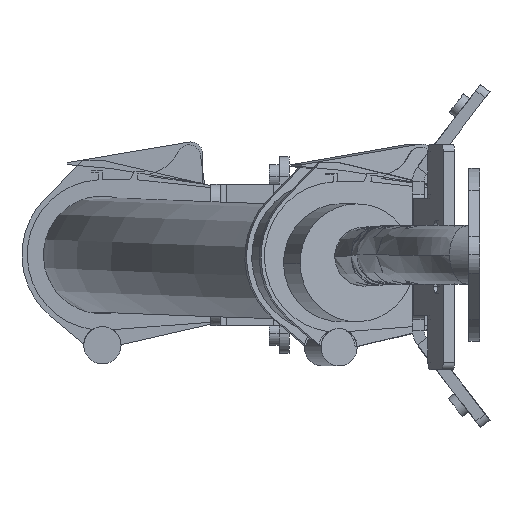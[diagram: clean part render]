
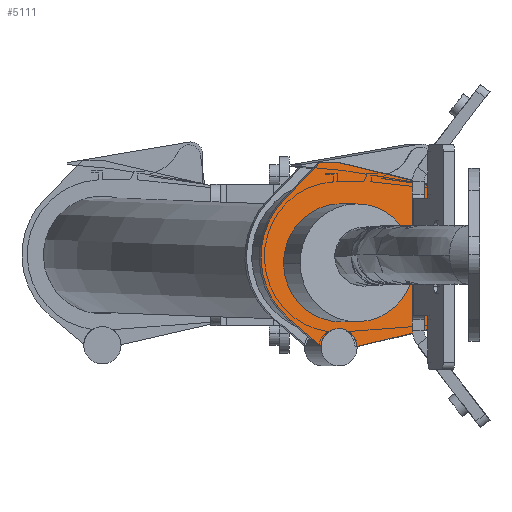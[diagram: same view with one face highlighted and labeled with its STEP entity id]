
A CAD part, left-side view. The second image highlights one B-rep face of the part: STEP entity #5111.
In plain terms, the highlighted planar face has unit normal (-0.966, -0.259, 0).
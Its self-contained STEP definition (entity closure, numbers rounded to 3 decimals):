
#34 = CARTESIAN_POINT ( 'NONE',  ( 1647.288, 160.635, 2167.454 ) ) ;
#85 = VERTEX_POINT ( 'NONE', #11930 ) ;
#169 = CARTESIAN_POINT ( 'NONE',  ( 1655.269, 130.851, 2201.564 ) ) ;
#283 = EDGE_CURVE ( 'NONE', #12365, #937, #14846, .T. ) ;
#709 = VERTEX_POINT ( 'NONE', #169 ) ;
#802 = EDGE_CURVE ( 'NONE', #15372, #4030, #15920, .T. ) ;
#844 = CARTESIAN_POINT ( 'NONE',  ( 1697.921, -28.328, 2257.454 ) ) ;
#859 = DIRECTION ( 'NONE',  ( 0., 0., -1. ) ) ;
#872 = VERTEX_POINT ( 'NONE', #2275 ) ;
#937 = VERTEX_POINT ( 'NONE', #5203 ) ;
#1726 = VERTEX_POINT ( 'NONE', #8625 ) ;
#1794 = VERTEX_POINT ( 'NONE', #9268 ) ;
#1861 = ORIENTED_EDGE ( 'NONE', *, *, #5844, .T. ) ;
#2147 = CARTESIAN_POINT ( 'NONE',  ( 1647.288, 160.635, 2252.154 ) ) ;
#2153 = VERTEX_POINT ( 'NONE', #14534 ) ;
#2275 = CARTESIAN_POINT ( 'NONE',  ( 1644.836, 169.787, 2158.641 ) ) ;
#2305 = DIRECTION ( 'NONE',  ( 0.966, 0.259, 0. ) ) ;
#2725 = CARTESIAN_POINT ( 'NONE',  ( 1647.288, 160.635, 2203.954 ) ) ;
#2954 = CARTESIAN_POINT ( 'NONE',  ( 1639.742, 188.797, 2232.781 ) ) ;
#3064 = ORIENTED_EDGE ( 'NONE', *, *, #17690, .T. ) ;
#3138 = VECTOR ( 'NONE', #7221, 1000. ) ;
#3220 = VECTOR ( 'NONE', #15069, 1000. ) ;
#3458 = VECTOR ( 'NONE', #8054, 1000. ) ;
#3520 = CARTESIAN_POINT ( 'NONE',  ( 1671.876, 68.871, 2167.954 ) ) ;
#3654 = EDGE_CURVE ( 'NONE', #10293, #2153, #12302, .T. ) ;
#3892 = DIRECTION ( 'NONE',  ( -0.966, -0.259, 0. ) ) ;
#4010 = ORIENTED_EDGE ( 'NONE', *, *, #15313, .F. ) ;
#4030 = VERTEX_POINT ( 'NONE', #16703 ) ;
#4642 = EDGE_CURVE ( 'NONE', #5885, #872, #11440, .T. ) ;
#4769 = VERTEX_POINT ( 'NONE', #2147 ) ;
#4796 = LINE ( 'NONE', #11603, #17666 ) ;
#4887 = DIRECTION ( 'NONE',  ( -0.259, 0.966, 0. ) ) ;
#5018 = DIRECTION ( 'NONE',  ( -0.252, 0.94, 0.228 ) ) ;
#5070 = AXIS2_PLACEMENT_3D ( 'NONE', #9982, #12736, #11441 ) ;
#5111 = ADVANCED_FACE ( 'NONE', ( #7812, #12154 ), #5140, .F. ) ;
#5140 = PLANE ( 'NONE',  #12048 ) ;
#5203 = CARTESIAN_POINT ( 'NONE',  ( 1661.523, 107.509, 2257.454 ) ) ;
#5220 = DIRECTION ( 'NONE',  ( 0., 0., -1. ) ) ;
#5267 = ORIENTED_EDGE ( 'NONE', *, *, #5528, .T. ) ;
#5287 = CARTESIAN_POINT ( 'NONE',  ( 1661.523, 107.509, 2261.454 ) ) ;
#5528 = EDGE_CURVE ( 'NONE', #4030, #5885, #7923, .T. ) ;
#5612 = LINE ( 'NONE', #11237, #17744 ) ;
#5643 = CIRCLE ( 'NONE', #16256, 9.5 ) ;
#5844 = EDGE_CURVE ( 'NONE', #8208, #2153, #4796, .T. ) ;
#5885 = VERTEX_POINT ( 'NONE', #7161 ) ;
#6121 = DIRECTION ( 'NONE',  ( 0., 0., -1. ) ) ;
#6172 = EDGE_CURVE ( 'NONE', #4769, #15372, #17481, .T. ) ;
#6287 = ORIENTED_EDGE ( 'NONE', *, *, #3654, .F. ) ;
#6456 = CIRCLE ( 'NONE', #7045, 30. ) ;
#6483 = ORIENTED_EDGE ( 'NONE', *, *, #16669, .F. ) ;
#6594 = VECTOR ( 'NONE', #15117, 1000. ) ;
#7045 = AXIS2_PLACEMENT_3D ( 'NONE', #12072, #3892, #4887 ) ;
#7161 = CARTESIAN_POINT ( 'NONE',  ( 1640.541, 185.814, 2172.308 ) ) ;
#7221 = DIRECTION ( 'NONE',  ( -0.182, 0.679, -0.711 ) ) ;
#7397 = LINE ( 'NONE', #8892, #7699 ) ;
#7639 = EDGE_CURVE ( 'NONE', #709, #85, #10371, .T. ) ;
#7699 = VECTOR ( 'NONE', #6121, 1000. ) ;
#7785 = ORIENTED_EDGE ( 'NONE', *, *, #4642, .T. ) ;
#7812 = FACE_BOUND ( 'NONE', #13323, .T. ) ;
#7896 = CARTESIAN_POINT ( 'NONE',  ( 1647.288, 160.635, 2157.954 ) ) ;
#7908 = DIRECTION ( 'NONE',  ( -0.259, 0.966, 0. ) ) ;
#7923 = CIRCLE ( 'NONE', #14410, 41. ) ;
#7930 = ORIENTED_EDGE ( 'NONE', *, *, #7639, .F. ) ;
#8003 = CARTESIAN_POINT ( 'NONE',  ( 1644.7, 170.294, 2252.154 ) ) ;
#8039 = CARTESIAN_POINT ( 'NONE',  ( 1661.523, 107.509, 2150.454 ) ) ;
#8054 = DIRECTION ( 'NONE',  ( 0., 0., 1. ) ) ;
#8208 = VERTEX_POINT ( 'NONE', #11196 ) ;
#8246 = CIRCLE ( 'NONE', #12095, 9.5 ) ;
#8309 = DIRECTION ( 'NONE',  ( -0.966, -0.259, 0. ) ) ;
#8625 = CARTESIAN_POINT ( 'NONE',  ( 1663.076, 101.714, 2150.454 ) ) ;
#8865 = CARTESIAN_POINT ( 'NONE',  ( 1645.994, 165.465, 2154.954 ) ) ;
#8892 = CARTESIAN_POINT ( 'NONE',  ( 1663.076, 101.714, 2261.454 ) ) ;
#9268 = CARTESIAN_POINT ( 'NONE',  ( 1661.523, 107.509, 2239.254 ) ) ;
#9281 = DIRECTION ( 'NONE',  ( -0.966, -0.259, 0. ) ) ;
#9510 = CARTESIAN_POINT ( 'NONE',  ( 1647.288, 160.635, 2157.954 ) ) ;
#9720 = CARTESIAN_POINT ( 'NONE',  ( 1661.523, 107.509, 2261.454 ) ) ;
#9982 = CARTESIAN_POINT ( 'NONE',  ( 1647.505, 159.824, 2200.989 ) ) ;
#10046 = VECTOR ( 'NONE', #10669, 1000. ) ;
#10252 = ORIENTED_EDGE ( 'NONE', *, *, #283, .T. ) ;
#10293 = VERTEX_POINT ( 'NONE', #8039 ) ;
#10371 = CIRCLE ( 'NONE', #5070, 30. ) ;
#10530 = ORIENTED_EDGE ( 'NONE', *, *, #15890, .F. ) ;
#10669 = DIRECTION ( 'NONE',  ( -0.259, 0.966, 0. ) ) ;
#10855 = EDGE_LOOP ( 'NONE', ( #1861, #6287, #3064, #17384, #10252, #16954, #13177, #16616, #16116, #5267, #7785, #10530, #6483 ) ) ;
#11196 = CARTESIAN_POINT ( 'NONE',  ( 1649.745, 151.464, 2158.264 ) ) ;
#11237 = CARTESIAN_POINT ( 'NONE',  ( 1697.921, -28.328, 2150.454 ) ) ;
#11440 = LINE ( 'NONE', #8865, #11721 ) ;
#11441 = DIRECTION ( 'NONE',  ( -0.259, 0.966, 0. ) ) ;
#11603 = CARTESIAN_POINT ( 'NONE',  ( 1661.523, 107.509, 2168.654 ) ) ;
#11721 = VECTOR ( 'NONE', #12915, 1000. ) ;
#11930 = CARTESIAN_POINT ( 'NONE',  ( 1639.742, 188.796, 2200.414 ) ) ;
#12048 = AXIS2_PLACEMENT_3D ( 'NONE', #3520, #2305, #7908 ) ;
#12072 = CARTESIAN_POINT ( 'NONE',  ( 1647.505, 159.824, 2200.989 ) ) ;
#12095 = AXIS2_PLACEMENT_3D ( 'NONE', #9510, #16522, #859 ) ;
#12154 = FACE_OUTER_BOUND ( 'NONE', #10855, .T. ) ;
#12295 = LINE ( 'NONE', #17649, #14144 ) ;
#12302 = LINE ( 'NONE', #5287, #3458 ) ;
#12365 = VERTEX_POINT ( 'NONE', #13578 ) ;
#12447 = EDGE_CURVE ( 'NONE', #1794, #937, #15246, .T. ) ;
#12736 = DIRECTION ( 'NONE',  ( -0.966, -0.259, 0. ) ) ;
#12845 = VERTEX_POINT ( 'NONE', #34 ) ;
#12915 = DIRECTION ( 'NONE',  ( 0.2, -0.746, -0.636 ) ) ;
#13170 = DIRECTION ( 'NONE',  ( 0.252, -0.942, 0.223 ) ) ;
#13177 = ORIENTED_EDGE ( 'NONE', *, *, #15702, .T. ) ;
#13323 = EDGE_LOOP ( 'NONE', ( #7930, #4010 ) ) ;
#13578 = CARTESIAN_POINT ( 'NONE',  ( 1663.076, 101.714, 2257.454 ) ) ;
#13929 = DIRECTION ( 'NONE',  ( 0., 0., -1. ) ) ;
#14144 = VECTOR ( 'NONE', #5018, 1000. ) ;
#14410 = AXIS2_PLACEMENT_3D ( 'NONE', #2725, #8309, #13929 ) ;
#14534 = CARTESIAN_POINT ( 'NONE',  ( 1661.523, 107.509, 2168.654 ) ) ;
#14782 = EDGE_CURVE ( 'NONE', #12365, #1726, #7397, .T. ) ;
#14846 = LINE ( 'NONE', #844, #6594 ) ;
#14996 = CARTESIAN_POINT ( 'NONE',  ( 1644.7, 170.294, 2252.154 ) ) ;
#15069 = DIRECTION ( 'NONE',  ( 0., 0., 1. ) ) ;
#15117 = DIRECTION ( 'NONE',  ( -0.259, 0.966, 0. ) ) ;
#15246 = LINE ( 'NONE', #9720, #3220 ) ;
#15313 = EDGE_CURVE ( 'NONE', #85, #709, #6456, .T. ) ;
#15372 = VERTEX_POINT ( 'NONE', #8003 ) ;
#15702 = EDGE_CURVE ( 'NONE', #1794, #4769, #12295, .T. ) ;
#15890 = EDGE_CURVE ( 'NONE', #12845, #872, #8246, .T. ) ;
#15920 = LINE ( 'NONE', #2954, #3138 ) ;
#16116 = ORIENTED_EDGE ( 'NONE', *, *, #802, .T. ) ;
#16256 = AXIS2_PLACEMENT_3D ( 'NONE', #7896, #9281, #5220 ) ;
#16522 = DIRECTION ( 'NONE',  ( -0.966, -0.259, 0. ) ) ;
#16616 = ORIENTED_EDGE ( 'NONE', *, *, #6172, .T. ) ;
#16669 = EDGE_CURVE ( 'NONE', #8208, #12845, #5643, .T. ) ;
#16703 = CARTESIAN_POINT ( 'NONE',  ( 1639.742, 188.797, 2232.781 ) ) ;
#16954 = ORIENTED_EDGE ( 'NONE', *, *, #12447, .F. ) ;
#17230 = DIRECTION ( 'NONE',  ( 0.259, -0.966, 0. ) ) ;
#17384 = ORIENTED_EDGE ( 'NONE', *, *, #14782, .F. ) ;
#17481 = LINE ( 'NONE', #14996, #10046 ) ;
#17649 = CARTESIAN_POINT ( 'NONE',  ( 1647.288, 160.635, 2252.154 ) ) ;
#17666 = VECTOR ( 'NONE', #13170, 1000. ) ;
#17690 = EDGE_CURVE ( 'NONE', #10293, #1726, #5612, .T. ) ;
#17744 = VECTOR ( 'NONE', #17230, 1000. ) ;
